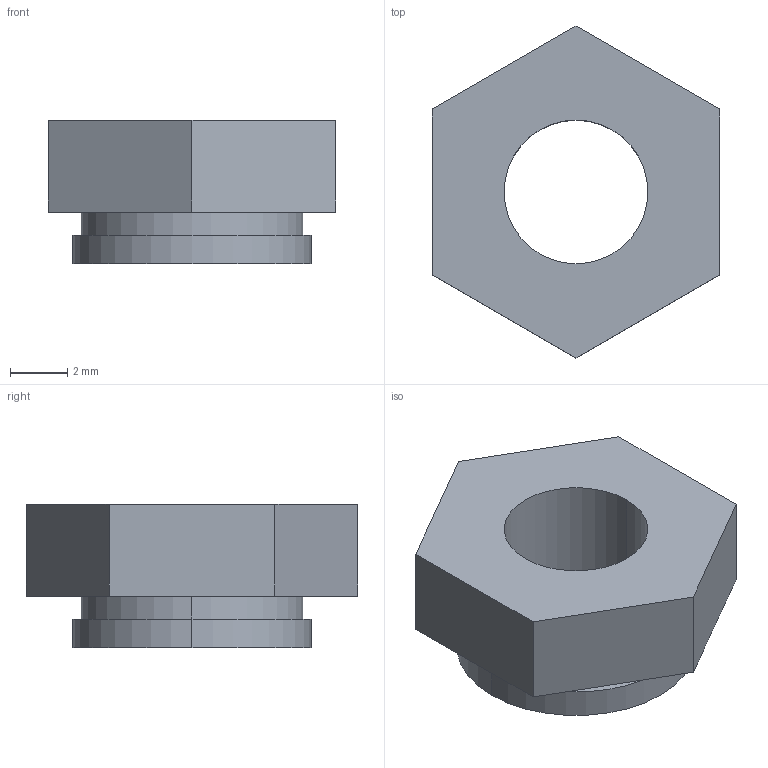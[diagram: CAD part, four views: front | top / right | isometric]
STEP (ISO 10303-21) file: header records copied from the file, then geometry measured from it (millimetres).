
FILE_DESCRIPTION (( 'STEP AP214' ), '1' );
FILE_NAME ('FO-00D-NCB-M6-020 FORMAT Ãàéêà M6 äëÿ çàïðåññîâêè â øèíó.STEP', '2025-09-02T06:41:34', ( '' ), ( '' ), 'SwSTEP 2.0', 'SolidWorks 2023', '' );
FILE_SCHEMA (( 'AUTOMOTIVE_DESIGN' ));
Length unit declared in the file: millimetre
Products named in the file (1): FO-00D-NCB-M6-020 FORMAT Гайка M6 для запрессовки в шину
Bounding box: 10 x 11.55 x 5 mm (x, y, z)
Volume: 270.3 mm3; surface area: 383.8 mm2
Topology: 1 solids, 1 shells, 16 faces, 36 edges, 24 vertices
Faces by surface type: plane 10, cylinder 6
Entity records: 479 total; most frequent: DIRECTION 82, CARTESIAN_POINT 77, ORIENTED_EDGE 72, EDGE_CURVE 36, AXIS2_PLACEMENT_3D 29, LINE 24, VECTOR 24, VERTEX_POINT 24
